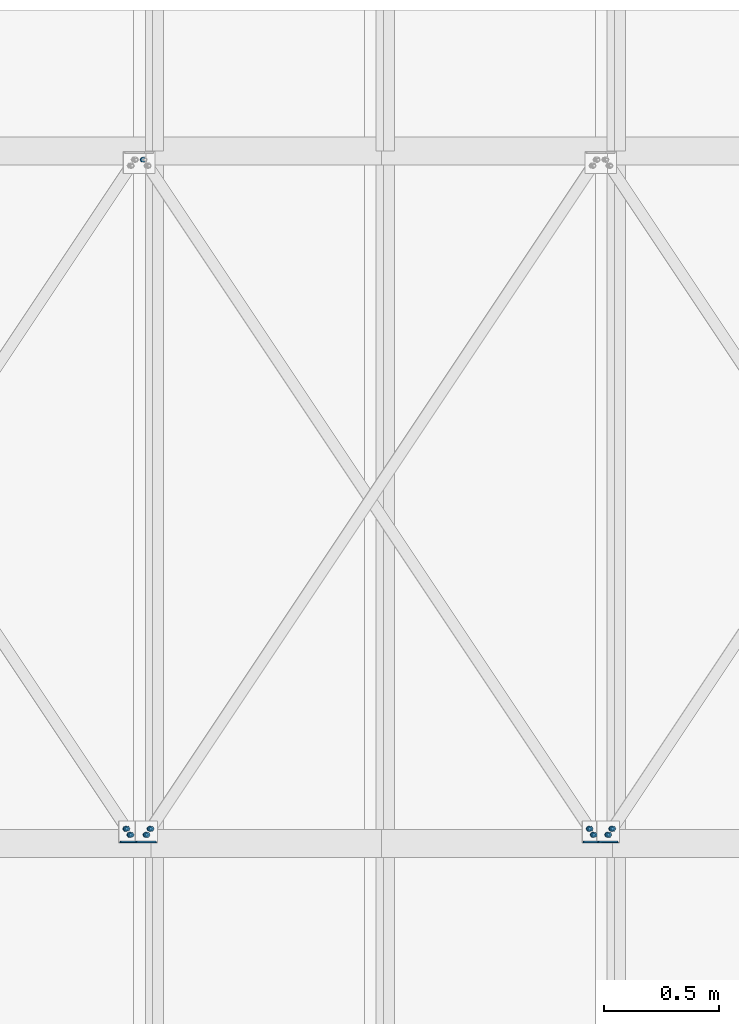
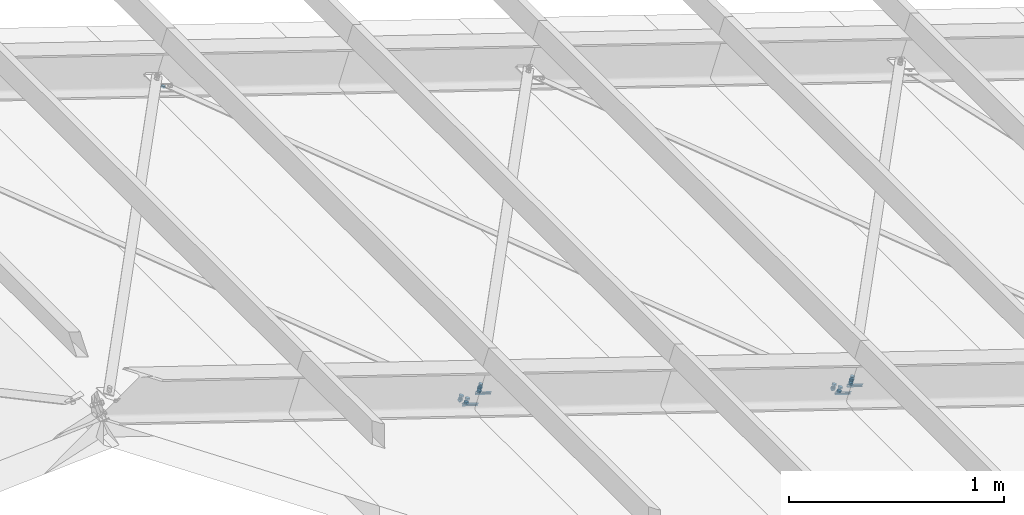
# One storey, part 45 of 53: 33 mechanical fasteners, 8 fasteners.
"""IFC4 building model written with IfcOpenShell, lengths in metres."""

from ifc_helpers import new_model, si_unit, frame, origin_with_axes, place, context, project, spatial, polyline, outline, extrude, type_object, element, save


model = new_model("IFC4")

# Units and contexts
model_context = context("Model", 3, precision=1e-05, world=origin_with_axes())
ifc_project = project(units=[si_unit("LENGTHUNIT", "METRE"), si_unit("AREAUNIT", "SQUARE_METRE"), si_unit("VOLUMEUNIT", "CUBIC_METRE"), si_unit("MASSUNIT", "GRAM", prefix="KILO"), si_unit("TIMEUNIT", "SECOND"), si_unit("PLANEANGLEUNIT", "RADIAN"), si_unit("SOLIDANGLEUNIT", "STERADIAN"), si_unit("THERMODYNAMICTEMPERATUREUNIT", "DEGREE_CELSIUS")], contexts=[model_context])

# Site, building, storey
placement_1 = place(None, origin_with_axes())
site = spatial("IfcSite", under=ifc_project, at=placement_1, Name="Italia", CompositionType="ELEMENT")
building = spatial("IfcBuilding", under=site, at=placement_1, Name="Capannone", CompositionType="ELEMENT")
storey_placement = place(None, frame((0.0, 0.0, 5.550000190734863), z_axis=(0.0, 0.0, 1.0), x_axis=(1.0, 0.0, 0.0)))
storey = spatial("IfcBuildingStorey", under=building, at=storey_placement, Name="Storey 1", CompositionType="ELEMENT", Elevation=5.550000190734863)

# Mechanical fasteners
mechanical_fastener_type_1 = type_object("IfcMechanicalFastenerType", Name="Collegamento -1088_-1058", PredefinedType="BOLT")
placement_2 = place(placement_1, origin_with_axes())
mechanical_fastener_1_placement = place(placement_2, origin_with_axes())
element("IfcMechanicalFastener", 1, at=mechanical_fastener_1_placement, inside=storey, type_object=mechanical_fastener_type_1, Name="Collegamento -1088_-1058", NominalDiameter=0.0119994, context=model_context, shape_type="SweptSolid", body=[
    extrude(outline(polyline([(0.0, 0.0), (-0.00982285, 0.00689316), (-0.0207033, 0.00183296), (-0.0217619, -0.0101204), (-0.011939, -0.0170126), (-0.00105762, -0.0119534), (0.0, 0.0)])), frame((11.0525, 12.0488, 6.62637), z_axis=(0.312127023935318, 0.0, 0.950040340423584), x_axis=(0.0, 1.0, 0.0)), (0.0, 0.0, 1.0), 0.00960008),
])
mechanical_fastener_type_2 = type_object("IfcMechanicalFastenerType", Name="Collegamento -1088_-1058", PredefinedType="BOLT")
mechanical_fastener_2_placement = place(placement_2, origin_with_axes())
element("IfcMechanicalFastener", 2, at=mechanical_fastener_2_placement, inside=storey, type_object=mechanical_fastener_type_2, Name="Collegamento -1088_-1058", NominalDiameter=0.012, context=model_context, shape_type="SweptSolid", body=[
    extrude(outline(polyline([(0.0, 0.0), (-0.000204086, -0.00155354), (-0.000802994, -0.00300026), (-0.00175667, -0.00424194), (-0.00299931, -0.00519562), (-0.00444698, -0.00579548), (-0.00599957, -0.00599957), (-0.00755215, -0.00579548), (-0.00899982, -0.00519562), (-0.0102425, -0.00424194), (-0.0111961, -0.00300026), (-0.011795, -0.00155354), (-0.0119991, 0.0), (-0.011795, 0.00155354), (-0.0111961, 0.00300026), (-0.0102425, 0.00424194), (-0.00899982, 0.00519562), (-0.00755215, 0.00579548), (-0.00599957, 0.00599957), (-0.00444698, 0.00579548), (-0.00299931, 0.00519562), (-0.00175667, 0.00424194), (-0.000802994, 0.00300026), (-0.000204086, 0.00155354), (0.0, 0.0)])), frame((11.0485, 12.0439, 6.59818), z_axis=(0.312127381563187, 0.0, 0.950040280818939), x_axis=(0.0, 1.0, 0.0)), (0.0, 0.0, 1.0), 0.0279997),
])
mechanical_fastener_type_3 = type_object("IfcMechanicalFastenerType", Name="Collegamento -1088_-1058", PredefinedType="BOLT")
mechanical_fastener_3_placement = place(placement_2, origin_with_axes())
element("IfcMechanicalFastener", 3, at=mechanical_fastener_3_placement, inside=storey, type_object=mechanical_fastener_type_3, Name="Collegamento -1088_-1058", NominalDiameter=0.0119994, context=model_context, shape_type="SweptSolid", body=[
    extrude(outline(polyline([(0.0, 0.0), (-0.00982285, 0.00689411), (-0.0207033, 0.00183392), (-0.0217619, -0.0101194), (-0.011939, -0.0170116), (-0.00105762, -0.0119514), (0.0, 0.0)])), frame((11.0457, 12.0488, 6.60584), z_axis=(0.312127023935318, 0.0, 0.950040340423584), x_axis=(0.0, 1.0, 0.0)), (0.0, 0.0, 1.0), 0.00960008),
])
mechanical_fastener_type_4 = type_object("IfcMechanicalFastenerType", Name="Collegamento -1088_-1058", PredefinedType="BOLT")
mechanical_fastener_4_placement = place(placement_2, origin_with_axes())
element("IfcMechanicalFastener", 4, at=mechanical_fastener_4_placement, inside=storey, type_object=mechanical_fastener_type_4, Name="Collegamento -1088_-1058", NominalDiameter=0.024, context=model_context, shape_type="SweptSolid", body=[
    extrude(outline(polyline([(0.0, 0.0), (-0.000409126, -0.00310516), (-0.00160789, -0.00600052), (-0.00351524, -0.00848484), (-0.00600052, -0.0103922), (-0.00889397, -0.011591), (-0.0120001, -0.0120001), (-0.0151062, -0.011591), (-0.0179996, -0.0103922), (-0.0204849, -0.00848484), (-0.0223923, -0.00600052), (-0.023591, -0.00310516), (-0.0240002, 0.0), (-0.023591, 0.00310612), (-0.0223923, 0.00600052), (-0.0204849, 0.00848484), (-0.0179996, 0.0103922), (-0.0151062, 0.01159), (-0.0120001, 0.0120001), (-0.00889397, 0.01159), (-0.00600052, 0.0103922), (-0.00351524, 0.00848484), (-0.00160789, 0.00600052), (-0.000409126, 0.00310612), (0.0, 0.0)])), frame((11.0535, 12.0499, 6.61339), z_axis=(0.312291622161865, 0.0, 0.949986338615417), x_axis=(0.0, 1.0, 0.0)), (0.0, 0.0, 1.0), 0.00200024),
])
mechanical_fastener_type_5 = type_object("IfcMechanicalFastenerType", Name="Collegamento -1088_-1058", PredefinedType="BOLT")
mechanical_fastener_5_placement = place(placement_2, origin_with_axes())
element("IfcMechanicalFastener", 5, at=mechanical_fastener_5_placement, inside=storey, type_object=mechanical_fastener_type_5, Name="Collegamento -1088_-1058", NominalDiameter=0.0119992, context=model_context, shape_type="SweptSolid", body=[
    extrude(outline(polyline([(0.0, 0.0), (-0.00982285, 0.00689316), (-0.0207043, 0.00183296), (-0.0217619, -0.0101204), (-0.011939, -0.0170126), (-0.00105858, -0.0119534), (0.0, 0.0)])), frame((11.0699, 12.075, 6.62063), z_axis=(0.312127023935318, 0.0, 0.950040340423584), x_axis=(0.0, 1.0, 0.0)), (0.0, 0.0, 1.0), 0.00960008),
])
mechanical_fastener_type_6 = type_object("IfcMechanicalFastenerType", Name="Collegamento -1088_-1058", PredefinedType="BOLT")
mechanical_fastener_6_placement = place(placement_2, origin_with_axes())
element("IfcMechanicalFastener", 6, at=mechanical_fastener_6_placement, inside=storey, type_object=mechanical_fastener_type_6, Name="Collegamento -1088_-1058", NominalDiameter=0.012, context=model_context, shape_type="SweptSolid", body=[
    extrude(outline(polyline([(0.0, 0.0), (-0.000204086, -0.00155354), (-0.000802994, -0.00300026), (-0.00175667, -0.00424194), (-0.00299931, -0.00519657), (-0.00444698, -0.00579548), (-0.00599957, -0.00600052), (-0.00755215, -0.00579548), (-0.00899982, -0.00519657), (-0.0102425, -0.00424194), (-0.0111961, -0.00300026), (-0.011795, -0.00155354), (-0.0119991, 0.0), (-0.011795, 0.00155258), (-0.0111961, 0.00300026), (-0.0102425, 0.00424099), (-0.00899982, 0.00519562), (-0.00755215, 0.00579453), (-0.00599957, 0.00599957), (-0.00444698, 0.00579453), (-0.00299931, 0.00519562), (-0.00175667, 0.00424099), (-0.000802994, 0.00300026), (-0.000204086, 0.00155258), (0.0, 0.0)])), frame((11.066, 12.0701, 6.59245), z_axis=(0.312158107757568, 0.0, 0.950030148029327), x_axis=(0.0, 1.0, 0.0)), (0.0, 0.0, 1.0), 0.028),
])
mechanical_fastener_type_7 = type_object("IfcMechanicalFastenerType", Name="Collegamento -1088_-1058", PredefinedType="BOLT")
mechanical_fastener_7_placement = place(placement_2, origin_with_axes())
element("IfcMechanicalFastener", 7, at=mechanical_fastener_7_placement, inside=storey, type_object=mechanical_fastener_type_7, Name="Collegamento -1088_-1058", NominalDiameter=0.0119995, context=model_context, shape_type="SweptSolid", body=[
    extrude(outline(polyline([(0.0, 0.0), (-0.00982285, 0.00689316), (-0.0207043, 0.00183296), (-0.0217619, -0.0101204), (-0.011939, -0.0170126), (-0.00105858, -0.0119524), (0.0, 0.0)])), frame((11.0632, 12.075, 6.60011), z_axis=(0.312127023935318, 0.0, 0.950040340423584), x_axis=(0.0, 1.0, 0.0)), (0.0, 0.0, 1.0), 0.00960008),
])
mechanical_fastener_type_8 = type_object("IfcMechanicalFastenerType", Name="Collegamento -1088_-1058", PredefinedType="BOLT")
mechanical_fastener_8_placement = place(placement_2, origin_with_axes())
element("IfcMechanicalFastener", 8, at=mechanical_fastener_8_placement, inside=storey, type_object=mechanical_fastener_type_8, Name="Collegamento -1088_-1058", NominalDiameter=0.024, context=model_context, shape_type="SweptSolid", body=[
    extrude(outline(polyline([(0.0, 0.0), (-0.000409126, -0.00310516), (-0.00160789, -0.00600052), (-0.00351524, -0.00848579), (-0.00600052, -0.0103912), (-0.00889397, -0.0115919), (-0.0120001, -0.0119991), (-0.0151062, -0.0115919), (-0.0179996, -0.0103912), (-0.0204849, -0.00848579), (-0.0223923, -0.00600052), (-0.023591, -0.00310516), (-0.0240002, 0.0), (-0.023591, 0.00310612), (-0.0223923, 0.00600052), (-0.0204849, 0.00848579), (-0.0179996, 0.0103922), (-0.0151062, 0.011591), (-0.0120001, 0.0120001), (-0.00889397, 0.011591), (-0.00600052, 0.0103922), (-0.00351524, 0.00848579), (-0.00160789, 0.00600052), (-0.000409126, 0.00310612), (0.0, 0.0)])), frame((11.071, 12.0761, 6.60765), z_axis=(0.311931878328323, 0.0, 0.950104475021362), x_axis=(0.0, 1.0, 0.0)), (0.0, 0.0, 1.0), 0.00199948),
])

# Fasteners
fastener_type_1 = type_object("IfcFastenerType", Name="Collegamento -1088_-1058", PredefinedType="WELD")
fastener_1_placement = place(placement_2, origin_with_axes())
element("IfcFastener", 9, at=fastener_1_placement, inside=storey, type_object=fastener_type_1, Name="Collegamento -1088_-1058", context=model_context, shape_type="SweptSolid", body=[
    extrude(outline(polyline([(0.0, 0.0), (-0.00717258, 0.00695896), (0.0, 0.00695896), (0.0, 0.0)])), frame((11.0944, 12.0031, 6.5948), z_axis=(-0.950032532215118, 0.0, 0.312150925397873), x_axis=(0.0, -1.0, 0.0)), (0.0, 0.0, 1.0), 0.0881004),
])
fastener_type_2 = type_object("IfcFastenerType", Name="Collegamento -1088_-1058", PredefinedType="WELD")
fastener_2_placement = place(placement_2, origin_with_axes())
element("IfcFastener", 10, at=fastener_2_placement, inside=storey, type_object=fastener_type_2, Name="Collegamento -1088_-1058", context=model_context, shape_type="SweptSolid", body=[
    extrude(outline(polyline([(0.0, 0.0), (0.00717258, -0.00695705), (0.0, -0.00695705), (0.0, 0.0)])), frame((11.0166, 12.0031, 6.64017), z_axis=(0.950031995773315, 0.0, -0.312152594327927), x_axis=(0.0, 1.0, 0.0)), (0.0, 0.0, 1.0), 0.0881015),
])

# Mechanical fasteners
mechanical_fastener_type_9 = type_object("IfcMechanicalFastenerType", Name="Collegamento -1088_-1122", PredefinedType="BOLT")
mechanical_fastener_9_placement = place(placement_2, origin_with_axes())
element("IfcMechanicalFastener", 11, at=mechanical_fastener_9_placement, inside=storey, type_object=mechanical_fastener_type_9, Name="Collegamento -1088_-1122", NominalDiameter=0.0119993, context=model_context, shape_type="SweptSolid", body=[
    extrude(outline(polyline([(0.0, 0.0), (-0.00982285, -0.0068922), (-0.00876427, -0.0188456), (0.0021162, -0.0239058), (0.011939, -0.0170116), (0.0108805, -0.0050602), (0.0, 0.0)])), frame((10.9829, 12.0369, 6.60713), z_axis=(0.312127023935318, 0.0, 0.950040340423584), x_axis=(0.0, 1.0, 0.0)), (0.0, 0.0, 1.0), 0.00960008),
])
mechanical_fastener_type_10 = type_object("IfcMechanicalFastenerType", Name="Collegamento -1088_-1122", PredefinedType="BOLT")
mechanical_fastener_10_placement = place(placement_2, origin_with_axes())
element("IfcMechanicalFastener", 12, at=mechanical_fastener_10_placement, inside=storey, type_object=mechanical_fastener_type_10, Name="Collegamento -1088_-1122", NominalDiameter=0.012, context=model_context, shape_type="SweptSolid", body=[
    extrude(outline(polyline([(0.0, 0.0), (-0.000204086, -0.00155354), (-0.000802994, -0.00300121), (-0.00175667, -0.0042429), (-0.00299931, -0.00519657), (-0.00444698, -0.00579643), (-0.00599957, -0.00599957), (-0.00755215, -0.00579643), (-0.00899982, -0.00519657), (-0.0102425, -0.0042429), (-0.0111961, -0.00300121), (-0.011795, -0.00155354), (-0.0119991, 0.0), (-0.011795, 0.00155258), (-0.0111961, 0.00299931), (-0.0102425, 0.00424194), (-0.00899982, 0.00519562), (-0.00755215, 0.00579453), (-0.00599957, 0.00599957), (-0.00444698, 0.00579453), (-0.00299931, 0.00519562), (-0.00175667, 0.00424194), (-0.000802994, 0.00299931), (-0.000204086, 0.00155258), (0.0, 0.0)])), frame((10.9855, 12.0439, 6.5768), z_axis=(0.312158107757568, 0.0, 0.950030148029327), x_axis=(0.0, 1.0, 0.0)), (0.0, 0.0, 1.0), 0.028),
])
mechanical_fastener_type_11 = type_object("IfcMechanicalFastenerType", Name="Collegamento -1088_-1122", PredefinedType="BOLT")
mechanical_fastener_11_placement = place(placement_2, origin_with_axes())
element("IfcMechanicalFastener", 13, at=mechanical_fastener_11_placement, inside=storey, type_object=mechanical_fastener_type_11, Name="Collegamento -1088_-1122", NominalDiameter=0.0119993, context=model_context, shape_type="SweptSolid", body=[
    extrude(outline(polyline([(0.0, 0.0), (-0.00982285, -0.0068922), (-0.00876427, -0.0188456), (0.0021162, -0.0239058), (0.011939, -0.0170126), (0.0108805, -0.00505924), (0.0, 0.0)])), frame((10.9761, 12.0369, 6.58661), z_axis=(0.312127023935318, 0.0, 0.950040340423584), x_axis=(0.0, 1.0, 0.0)), (0.0, 0.0, 1.0), 0.00960008),
])
mechanical_fastener_type_12 = type_object("IfcMechanicalFastenerType", Name="Collegamento -1088_-1122", PredefinedType="BOLT")
mechanical_fastener_12_placement = place(placement_2, origin_with_axes())
element("IfcMechanicalFastener", 14, at=mechanical_fastener_12_placement, inside=storey, type_object=mechanical_fastener_type_12, Name="Collegamento -1088_-1122", NominalDiameter=0.024, context=model_context, shape_type="SweptSolid", body=[
    extrude(outline(polyline([(0.0, 0.0), (-0.000409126, -0.00310612), (-0.00160789, -0.00600052), (-0.00351524, -0.00848484), (-0.00600052, -0.0103922), (-0.00889397, -0.0115919), (-0.0120001, -0.0120001), (-0.0151062, -0.0115919), (-0.0179996, -0.0103922), (-0.0204849, -0.00848484), (-0.0223923, -0.00600052), (-0.023591, -0.00310612), (-0.0240002, 0.0), (-0.023591, 0.00310516), (-0.0223923, 0.00599957), (-0.0204849, 0.00848579), (-0.0179996, 0.0103922), (-0.0151062, 0.011591), (-0.0120001, 0.0120001), (-0.00889397, 0.011591), (-0.00600052, 0.0103922), (-0.00351524, 0.00848579), (-0.00160789, 0.00599957), (-0.000409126, 0.00310516), (0.0, 0.0)])), frame((10.9905, 12.0499, 6.592), z_axis=(0.311931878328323, 0.0, 0.950104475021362), x_axis=(0.0, 1.0, 0.0)), (0.0, 0.0, 1.0), 0.00199948),
])
mechanical_fastener_type_13 = type_object("IfcMechanicalFastenerType", Name="Collegamento -1088_-1122", PredefinedType="BOLT")
mechanical_fastener_13_placement = place(placement_2, origin_with_axes())
element("IfcMechanicalFastener", 15, at=mechanical_fastener_13_placement, inside=storey, type_object=mechanical_fastener_type_13, Name="Collegamento -1088_-1122", NominalDiameter=0.0119989, context=model_context, shape_type="SweptSolid", body=[
    extrude(outline(polyline([(0.0, 0.0), (-0.00982189, -0.0068922), (-0.00876427, -0.0188456), (0.0021162, -0.0239058), (0.011939, -0.0170126), (0.0108814, -0.00505829), (0.0, 0.0)])), frame((10.9654, 12.0631, 6.61287), z_axis=(0.312127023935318, 0.0, 0.950040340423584), x_axis=(0.0, 1.0, 0.0)), (0.0, 0.0, 1.0), 0.00960008),
])
mechanical_fastener_type_14 = type_object("IfcMechanicalFastenerType", Name="Collegamento -1088_-1122", PredefinedType="BOLT")
mechanical_fastener_14_placement = place(placement_2, origin_with_axes())
element("IfcMechanicalFastener", 16, at=mechanical_fastener_14_placement, inside=storey, type_object=mechanical_fastener_type_14, Name="Collegamento -1088_-1122", NominalDiameter=0.012, context=model_context, shape_type="SweptSolid", body=[
    extrude(outline(polyline([(0.0, 0.0), (-0.000204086, -0.00155354), (-0.000802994, -0.00300121), (-0.00175667, -0.00424194), (-0.00299931, -0.00519657), (-0.00444698, -0.00579548), (-0.00599957, -0.00599957), (-0.00755215, -0.00579548), (-0.00899982, -0.00519657), (-0.0102425, -0.00424194), (-0.0111961, -0.00300121), (-0.011795, -0.00155354), (-0.0119991, 0.0), (-0.011795, 0.00155258), (-0.0111961, 0.00299931), (-0.0102425, 0.00424194), (-0.00899982, 0.00519562), (-0.00755215, 0.00579453), (-0.00599957, 0.00599957), (-0.00444698, 0.00579453), (-0.00299931, 0.00519562), (-0.00175667, 0.00424194), (-0.000802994, 0.00299931), (-0.000204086, 0.00155258), (0.0, 0.0)])), frame((10.968, 12.0701, 6.58254), z_axis=(0.312158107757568, 0.0, 0.950030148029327), x_axis=(0.0, 1.0, 0.0)), (0.0, 0.0, 1.0), 0.028),
])
mechanical_fastener_type_15 = type_object("IfcMechanicalFastenerType", Name="Collegamento -1088_-1122", PredefinedType="BOLT")
mechanical_fastener_15_placement = place(placement_2, origin_with_axes())
element("IfcMechanicalFastener", 17, at=mechanical_fastener_15_placement, inside=storey, type_object=mechanical_fastener_type_15, Name="Collegamento -1088_-1122", NominalDiameter=0.0119994, context=model_context, shape_type="SweptSolid", body=[
    extrude(outline(polyline([(0.0, 0.0), (-0.00982189, -0.0068922), (-0.00876427, -0.0188465), (0.0021162, -0.0239067), (0.011939, -0.0170135), (0.0108814, -0.0050602), (0.0, 0.0)])), frame((10.9587, 12.0631, 6.59235), z_axis=(0.312216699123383, 0.0, 0.950010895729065), x_axis=(0.0, 1.0, 0.0)), (0.0, 0.0, 1.0), 0.00960038),
])
mechanical_fastener_type_16 = type_object("IfcMechanicalFastenerType", Name="Collegamento -1088_-1122", PredefinedType="BOLT")
mechanical_fastener_16_placement = place(placement_2, origin_with_axes())
element("IfcMechanicalFastener", 18, at=mechanical_fastener_16_placement, inside=storey, type_object=mechanical_fastener_type_16, Name="Collegamento -1088_-1122", NominalDiameter=0.024, context=model_context, shape_type="SweptSolid", body=[
    extrude(outline(polyline([(0.0, 0.0), (-0.000409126, -0.00310612), (-0.00160789, -0.00600052), (-0.00351524, -0.00848579), (-0.00600052, -0.0103922), (-0.00889397, -0.011591), (-0.0120001, -0.0120001), (-0.0151062, -0.011591), (-0.0179996, -0.0103922), (-0.0204849, -0.00848579), (-0.0223923, -0.00600052), (-0.023591, -0.00310612), (-0.0240002, 0.0), (-0.023591, 0.00310612), (-0.0223923, 0.00600052), (-0.0204849, 0.00848579), (-0.0179996, 0.0103922), (-0.0151062, 0.011591), (-0.0120001, 0.0120001), (-0.00889397, 0.011591), (-0.00600052, 0.0103922), (-0.00351524, 0.00848579), (-0.00160789, 0.00600052), (-0.000409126, 0.00310612), (0.0, 0.0)])), frame((10.973, 12.0761, 6.59774), z_axis=(0.312220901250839, 0.0, 0.950009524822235), x_axis=(0.0, 1.0, 0.0)), (0.0, 0.0, 1.0), 0.00200069),
])

# Fasteners
fastener_type_3 = type_object("IfcFastenerType", Name="Collegamento -1088_-1122", PredefinedType="WELD")
fastener_3_placement = place(placement_2, origin_with_axes())
element("IfcFastener", 19, at=fastener_3_placement, inside=storey, type_object=fastener_type_3, Name="Collegamento -1088_-1122", context=model_context, shape_type="SweptSolid", body=[
    extrude(outline(polyline([(0.0, 0.0), (-0.00717258, 0.00695896), (0.0, 0.00695896), (0.0, 0.0)])), frame((11.0303, 12.0031, 6.57376), z_axis=(-0.950030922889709, 0.0, 0.312155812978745), x_axis=(0.0, -1.0, 0.0)), (0.0, 0.0, 1.0), 0.0881006),
])
fastener_type_4 = type_object("IfcFastenerType", Name="Collegamento -1088_-1122", PredefinedType="WELD")
fastener_4_placement = place(placement_2, origin_with_axes())
element("IfcFastener", 20, at=fastener_4_placement, inside=storey, type_object=fastener_type_4, Name="Collegamento -1088_-1122", context=model_context, shape_type="SweptSolid", body=[
    extrude(outline(polyline([(0.0, 0.0), (0.00717258, -0.00695801), (0.0, -0.00695801), (0.0, 0.0)])), frame((10.9524, 12.0031, 6.61914), z_axis=(0.950030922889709, 0.0, -0.312155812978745), x_axis=(0.0, 1.0, 0.0)), (0.0, 0.0, 1.0), 0.0881006),
])

# Mechanical fasteners
mechanical_fastener_type_17 = type_object("IfcMechanicalFastenerType", Name="Collegamento -1120_-1090", PredefinedType="BOLT")
mechanical_fastener_17_placement = place(placement_2, origin_with_axes())
element("IfcMechanicalFastener", 21, at=mechanical_fastener_17_placement, inside=storey, type_object=mechanical_fastener_type_17, Name="Collegamento -1120_-1090", NominalDiameter=0.0119995, context=model_context, shape_type="SweptSolid", body=[
    extrude(outline(polyline([(0.0, 0.0), (-0.00982285, 0.0068922), (-0.0207033, 0.00183201), (-0.0217619, -0.0101204), (-0.011939, -0.0170145), (-0.00105762, -0.0119543), (0.0, 0.0)])), frame((9.05247, 12.0488, 7.28351), z_axis=(0.312216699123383, 0.0, 0.950010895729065), x_axis=(0.0, 1.0, 0.0)), (0.0, 0.0, 1.0), 0.00960038),
])
mechanical_fastener_type_18 = type_object("IfcMechanicalFastenerType", Name="Collegamento -1120_-1090", PredefinedType="BOLT")
mechanical_fastener_18_placement = place(placement_2, origin_with_axes())
element("IfcMechanicalFastener", 22, at=mechanical_fastener_18_placement, inside=storey, type_object=mechanical_fastener_type_18, Name="Collegamento -1120_-1090", NominalDiameter=0.012, context=model_context, shape_type="SweptSolid", body=[
    extrude(outline(polyline([(0.0, 0.0), (-0.000204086, -0.00155306), (-0.000802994, -0.00300026), (-0.00175667, -0.00424194), (-0.00299931, -0.00519657), (-0.00444698, -0.00579548), (-0.00599957, -0.00600052), (-0.00755215, -0.00579548), (-0.00899982, -0.00519657), (-0.0102425, -0.00424194), (-0.0111961, -0.00300026), (-0.011795, -0.00155306), (-0.0119991, 0.0), (-0.011795, 0.00155258), (-0.0111961, 0.00300026), (-0.0102425, 0.00424194), (-0.00899982, 0.00519562), (-0.00755215, 0.005795), (-0.00599957, 0.00600004), (-0.00444698, 0.005795), (-0.00299931, 0.00519562), (-0.00175667, 0.00424194), (-0.000802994, 0.00300026), (-0.000204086, 0.00155258), (0.0, 0.0)])), frame((9.04854, 12.0439, 7.25533), z_axis=(0.312188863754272, 0.0, 0.95002007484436), x_axis=(0.0, 1.0, 0.0)), (0.0, 0.0, 1.0), 0.0280003),
])
mechanical_fastener_type_19 = type_object("IfcMechanicalFastenerType", Name="Collegamento -1120_-1090", PredefinedType="BOLT")
mechanical_fastener_19_placement = place(placement_2, origin_with_axes())
element("IfcMechanicalFastener", 23, at=mechanical_fastener_19_placement, inside=storey, type_object=mechanical_fastener_type_19, Name="Collegamento -1120_-1090", NominalDiameter=0.0119995, context=model_context, shape_type="SweptSolid", body=[
    extrude(outline(polyline([(0.0, 0.0), (-0.00982285, 0.0068922), (-0.0207033, 0.00183201), (-0.0217619, -0.0101204), (-0.011939, -0.017014), (-0.00105762, -0.0119538), (0.0, 0.0)])), frame((9.04573, 12.0488, 7.26299), z_axis=(0.312127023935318, 0.0, 0.950040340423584), x_axis=(0.0, 1.0, 0.0)), (0.0, 0.0, 1.0), 0.00960008),
])
mechanical_fastener_type_20 = type_object("IfcMechanicalFastenerType", Name="Collegamento -1120_-1090", PredefinedType="BOLT")
mechanical_fastener_20_placement = place(placement_2, origin_with_axes())
element("IfcMechanicalFastener", 24, at=mechanical_fastener_20_placement, inside=storey, type_object=mechanical_fastener_type_20, Name="Collegamento -1120_-1090", NominalDiameter=0.024, context=model_context, shape_type="SweptSolid", body=[
    extrude(outline(polyline([(0.0, 0.0), (-0.000409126, -0.00310612), (-0.00160789, -0.00600052), (-0.00351524, -0.00848579), (-0.00600052, -0.0103912), (-0.00889397, -0.0115919), (-0.0120001, -0.0119991), (-0.0151062, -0.0115919), (-0.0179996, -0.0103912), (-0.0204849, -0.00848579), (-0.0223923, -0.00600052), (-0.023591, -0.00310612), (-0.0240002, 0.0), (-0.023591, 0.00310612), (-0.0223923, 0.00600052), (-0.0204849, 0.00848579), (-0.0179996, 0.0103922), (-0.0151062, 0.0115919), (-0.0120001, 0.0120006), (-0.00889397, 0.0115919), (-0.00600052, 0.0103922), (-0.00351524, 0.00848579), (-0.00160789, 0.00600052), (-0.000409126, 0.00310612), (0.0, 0.0)])), frame((9.05353, 12.0499, 7.27053), z_axis=(0.311931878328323, 0.0, 0.950104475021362), x_axis=(0.0, 1.0, 0.0)), (0.0, 0.0, 1.0), 0.00199948),
])
mechanical_fastener_type_21 = type_object("IfcMechanicalFastenerType", Name="Collegamento -1120_-1090", PredefinedType="BOLT")
mechanical_fastener_21_placement = place(placement_2, origin_with_axes())
element("IfcMechanicalFastener", 25, at=mechanical_fastener_21_placement, inside=storey, type_object=mechanical_fastener_type_21, Name="Collegamento -1120_-1090", NominalDiameter=0.0119994, context=model_context, shape_type="SweptSolid", body=[
    extrude(outline(polyline([(0.0, 0.0), (-0.00982285, 0.00689268), (-0.0207043, 0.00183249), (-0.0217619, -0.0101209), (-0.011939, -0.017014), (-0.00105858, -0.0119538), (0.0, 0.0)])), frame((9.06993, 12.075, 7.27777), z_axis=(0.312216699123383, 0.0, 0.950010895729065), x_axis=(0.0, 1.0, 0.0)), (0.0, 0.0, 1.0), 0.00960038),
])
mechanical_fastener_type_22 = type_object("IfcMechanicalFastenerType", Name="Collegamento -1120_-1090", PredefinedType="BOLT")
mechanical_fastener_22_placement = place(placement_2, origin_with_axes())
element("IfcMechanicalFastener", 26, at=mechanical_fastener_22_placement, inside=storey, type_object=mechanical_fastener_type_22, Name="Collegamento -1120_-1090", NominalDiameter=0.012, context=model_context, shape_type="SweptSolid", body=[
    extrude(outline(polyline([(0.0, 0.0), (-0.000204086, -0.00155354), (-0.000802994, -0.00300121), (-0.00175667, -0.0042429), (-0.00299931, -0.00519657), (-0.00444698, -0.00579548), (-0.00599957, -0.00600052), (-0.00755215, -0.00579548), (-0.00899982, -0.00519657), (-0.0102425, -0.0042429), (-0.0111961, -0.00300121), (-0.011795, -0.00155354), (-0.0119991, 0.0), (-0.011795, 0.0015521), (-0.0111961, 0.00299931), (-0.0102425, 0.00424194), (-0.00899982, 0.00519514), (-0.00755215, 0.00579453), (-0.00599957, 0.00599909), (-0.00444698, 0.00579453), (-0.00299931, 0.00519514), (-0.00175667, 0.00424194), (-0.000802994, 0.00299931), (-0.000204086, 0.0015521), (0.0, 0.0)])), frame((9.066, 12.0701, 7.24959), z_axis=(0.312127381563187, 0.0, 0.950040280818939), x_axis=(0.0, 1.0, 0.0)), (0.0, 0.0, 1.0), 0.0279997),
])
mechanical_fastener_type_23 = type_object("IfcMechanicalFastenerType", Name="Collegamento -1120_-1090", PredefinedType="BOLT")
mechanical_fastener_23_placement = place(placement_2, origin_with_axes())
element("IfcMechanicalFastener", 27, at=mechanical_fastener_23_placement, inside=storey, type_object=mechanical_fastener_type_23, Name="Collegamento -1120_-1090", NominalDiameter=0.0119994, context=model_context, shape_type="SweptSolid", body=[
    extrude(outline(polyline([(0.0, 0.0), (-0.00982285, 0.0068922), (-0.0207043, 0.00183201), (-0.0217619, -0.0101204), (-0.011939, -0.0170135), (-0.00105858, -0.0119534), (0.0, 0.0)])), frame((9.06319, 12.075, 7.25725), z_axis=(0.312127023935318, 0.0, 0.950040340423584), x_axis=(0.0, 1.0, 0.0)), (0.0, 0.0, 1.0), 0.00960008),
])
mechanical_fastener_type_24 = type_object("IfcMechanicalFastenerType", Name="Collegamento -1120_-1090", PredefinedType="BOLT")
mechanical_fastener_24_placement = place(placement_2, origin_with_axes())
element("IfcMechanicalFastener", 28, at=mechanical_fastener_24_placement, inside=storey, type_object=mechanical_fastener_type_24, Name="Collegamento -1120_-1090", NominalDiameter=0.024, context=model_context, shape_type="SweptSolid", body=[
    extrude(outline(polyline([(0.0, 0.0), (-0.000409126, -0.00310564), (-0.00160789, -0.00600004), (-0.00351524, -0.00848484), (-0.00600052, -0.0103927), (-0.00889397, -0.0115905), (-0.0120001, -0.0119996), (-0.0151062, -0.0115905), (-0.0179996, -0.0103927), (-0.0204849, -0.00848484), (-0.0223923, -0.00600004), (-0.023591, -0.00310564), (-0.0240002, 0.0), (-0.023591, 0.00310612), (-0.0223923, 0.00600052), (-0.0204849, 0.00848532), (-0.0179996, 0.0103927), (-0.0151062, 0.011591), (-0.0120001, 0.0119996), (-0.00889397, 0.011591), (-0.00600052, 0.0103927), (-0.00351524, 0.00848532), (-0.00160789, 0.00600052), (-0.000409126, 0.00310612), (0.0, 0.0)])), frame((9.071, 12.0761, 7.26479), z_axis=(0.312362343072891, 0.0, 0.94996303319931), x_axis=(0.0, 1.0, 0.0)), (0.0, 0.0, 1.0), 0.00199978),
])

# Fasteners
fastener_type_5 = type_object("IfcFastenerType", Name="Collegamento -1120_-1090", PredefinedType="WELD")
fastener_5_placement = place(placement_2, origin_with_axes())
element("IfcFastener", 29, at=fastener_5_placement, inside=storey, type_object=fastener_type_5, Name="Collegamento -1120_-1090", context=model_context, shape_type="SweptSolid", body=[
    extrude(outline(polyline([(0.0, 0.0), (-0.00717258, 0.00695801), (0.0, 0.00695801), (0.0, 0.0)])), frame((9.09439, 12.0031, 7.25194), z_axis=(-0.950031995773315, 0.0, 0.312152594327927), x_axis=(0.0, -1.0, 0.0)), (0.0, 0.0, 1.0), 0.0881015),
])
fastener_type_6 = type_object("IfcFastenerType", Name="Collegamento -1120_-1090", PredefinedType="WELD")
fastener_6_placement = place(placement_2, origin_with_axes())
element("IfcFastener", 30, at=fastener_6_placement, inside=storey, type_object=fastener_type_6, Name="Collegamento -1120_-1090", context=model_context, shape_type="SweptSolid", body=[
    extrude(outline(polyline([(0.0, 0.0), (0.00717258, -0.00695896), (0.0, -0.00695896), (0.0, 0.0)])), frame((9.01656, 12.0031, 7.29732), z_axis=(0.950031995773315, 0.0, -0.312152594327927), x_axis=(0.0, 1.0, 0.0)), (0.0, 0.0, 1.0), 0.0881015),
])

# Mechanical fasteners
mechanical_fastener_type_25 = type_object("IfcMechanicalFastenerType", Name="Collegamento -1120_-1147", PredefinedType="BOLT")
mechanical_fastener_25_placement = place(placement_2, origin_with_axes())
element("IfcMechanicalFastener", 31, at=mechanical_fastener_25_placement, inside=storey, type_object=mechanical_fastener_type_25, Name="Collegamento -1120_-1147", NominalDiameter=0.0119994, context=model_context, shape_type="SweptSolid", body=[
    extrude(outline(polyline([(0.0, 0.0), (-0.00982285, -0.0068922), (-0.00876427, -0.0188456), (0.0021162, -0.0239058), (0.011939, -0.0170126), (0.0108814, -0.0050602), (0.0, 0.0)])), frame((8.97663, 12.0369, 7.24527), z_axis=(0.312127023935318, 0.0, 0.950040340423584), x_axis=(0.0, 1.0, 0.0)), (0.0, 0.0, 1.0), 0.00960008),
])
mechanical_fastener_type_26 = type_object("IfcMechanicalFastenerType", Name="Collegamento -1120_-1147", PredefinedType="BOLT")
mechanical_fastener_26_placement = place(placement_2, origin_with_axes())
element("IfcMechanicalFastener", 32, at=mechanical_fastener_26_placement, inside=storey, type_object=mechanical_fastener_type_26, Name="Collegamento -1120_-1147", NominalDiameter=0.012, context=model_context, shape_type="SweptSolid", body=[
    extrude(outline(polyline([(0.0, 0.0), (-0.000204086, -0.00155306), (-0.000802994, -0.00300074), (-0.00175667, -0.00424242), (-0.00299931, -0.00519609), (-0.00444698, -0.00579548), (-0.00599957, -0.00600004), (-0.00755215, -0.00579548), (-0.00899982, -0.00519609), (-0.0102425, -0.00424242), (-0.0111961, -0.00300074), (-0.011795, -0.00155306), (-0.0119991, 0.0), (-0.011795, 0.0015521), (-0.0111961, 0.00299978), (-0.0102425, 0.00424242), (-0.00899982, 0.00519514), (-0.00755215, 0.005795), (-0.00599957, 0.00599957), (-0.00444698, 0.005795), (-0.00299931, 0.00519514), (-0.00175667, 0.00424242), (-0.000802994, 0.00299978), (-0.000204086, 0.0015521), (0.0, 0.0)])), frame((8.97924, 12.0439, 7.21494), z_axis=(0.312127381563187, 0.0, 0.950040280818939), x_axis=(0.0, 1.0, 0.0)), (0.0, 0.0, 1.0), 0.0279997),
])
mechanical_fastener_type_27 = type_object("IfcMechanicalFastenerType", Name="Collegamento -1120_-1147", PredefinedType="BOLT")
mechanical_fastener_27_placement = place(placement_2, origin_with_axes())
element("IfcMechanicalFastener", 33, at=mechanical_fastener_27_placement, inside=storey, type_object=mechanical_fastener_type_27, Name="Collegamento -1120_-1147", NominalDiameter=0.0119994, context=model_context, shape_type="SweptSolid", body=[
    extrude(outline(polyline([(0.0, 0.0), (-0.00982285, -0.0068922), (-0.00876427, -0.018846), (0.0021162, -0.0239062), (0.011939, -0.0170126), (0.0108814, -0.0050602), (0.0, 0.0)])), frame((8.96989, 12.0369, 7.22475), z_axis=(0.312127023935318, 0.0, 0.950040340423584), x_axis=(0.0, 1.0, 0.0)), (0.0, 0.0, 1.0), 0.00960008),
])
mechanical_fastener_type_28 = type_object("IfcMechanicalFastenerType", Name="Collegamento -1120_-1147", PredefinedType="BOLT")
mechanical_fastener_28_placement = place(placement_2, origin_with_axes())
element("IfcMechanicalFastener", 34, at=mechanical_fastener_28_placement, inside=storey, type_object=mechanical_fastener_type_28, Name="Collegamento -1120_-1147", NominalDiameter=0.024, context=model_context, shape_type="SweptSolid", body=[
    extrude(outline(polyline([(0.0, 0.0), (-0.000409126, -0.00310612), (-0.00160789, -0.00600052), (-0.00351524, -0.00848484), (-0.00600052, -0.0103927), (-0.00889397, -0.011591), (-0.0120001, -0.0120001), (-0.0151062, -0.011591), (-0.0179996, -0.0103927), (-0.0204849, -0.00848484), (-0.0223923, -0.00600052), (-0.023591, -0.00310612), (-0.0240002, 0.0), (-0.023591, 0.00310612), (-0.0223923, 0.00600052), (-0.0204849, 0.00848484), (-0.0179996, 0.0103922), (-0.0151062, 0.011591), (-0.0120001, 0.0119996), (-0.00889397, 0.011591), (-0.00600052, 0.0103922), (-0.00351524, 0.00848484), (-0.00160789, 0.00600052), (-0.000409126, 0.00310612), (0.0, 0.0)])), frame((8.98424, 12.0499, 7.23014), z_axis=(0.312362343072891, 0.0, 0.94996303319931), x_axis=(0.0, 1.0, 0.0)), (0.0, 0.0, 1.0), 0.00199978),
])
mechanical_fastener_type_29 = type_object("IfcMechanicalFastenerType", Name="Collegamento -1120_-1147", PredefinedType="BOLT")
mechanical_fastener_29_placement = place(placement_2, origin_with_axes())
element("IfcMechanicalFastener", 35, at=mechanical_fastener_29_placement, inside=storey, type_object=mechanical_fastener_type_29, Name="Collegamento -1120_-1147", NominalDiameter=0.0119995, context=model_context, shape_type="SweptSolid", body=[
    extrude(outline(polyline([(0.0, 0.0), (-0.00982285, -0.0068922), (-0.00876522, -0.018846), (0.0021162, -0.0239062), (0.011939, -0.0170126), (0.0108805, -0.0050602), (0.0, 0.0)])), frame((8.95917, 12.0631, 7.25101), z_axis=(0.312127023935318, 0.0, 0.950040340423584), x_axis=(0.0, 1.0, 0.0)), (0.0, 0.0, 1.0), 0.00960008),
])
mechanical_fastener_type_30 = type_object("IfcMechanicalFastenerType", Name="Collegamento -1120_-1147", PredefinedType="BOLT")
mechanical_fastener_30_placement = place(placement_2, origin_with_axes())
element("IfcMechanicalFastener", 36, at=mechanical_fastener_30_placement, inside=storey, type_object=mechanical_fastener_type_30, Name="Collegamento -1120_-1147", NominalDiameter=0.012, context=model_context, shape_type="SweptSolid", body=[
    extrude(outline(polyline([(0.0, 0.0), (-0.000204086, -0.00155306), (-0.000802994, -0.00300026), (-0.00175667, -0.00424194), (-0.00299931, -0.00519657), (-0.00444698, -0.00579548), (-0.00599957, -0.00600052), (-0.00755215, -0.00579548), (-0.00899982, -0.00519657), (-0.0102425, -0.00424194), (-0.0111961, -0.00300026), (-0.011795, -0.00155306), (-0.0119991, 0.0), (-0.011795, 0.00155258), (-0.0111961, 0.00300026), (-0.0102425, 0.00424147), (-0.00899982, 0.00519562), (-0.00755215, 0.00579453), (-0.00599957, 0.00599957), (-0.00444698, 0.00579453), (-0.00299931, 0.00519562), (-0.00175667, 0.00424147), (-0.000802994, 0.00300026), (-0.000204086, 0.00155258), (0.0, 0.0)])), frame((8.96178, 12.0701, 7.22068), z_axis=(0.312158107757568, 0.0, 0.950030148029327), x_axis=(0.0, 1.0, 0.0)), (0.0, 0.0, 1.0), 0.028),
])
mechanical_fastener_type_31 = type_object("IfcMechanicalFastenerType", Name="Collegamento -1120_-1147", PredefinedType="BOLT")
mechanical_fastener_31_placement = place(placement_2, origin_with_axes())
element("IfcMechanicalFastener", 37, at=mechanical_fastener_31_placement, inside=storey, type_object=mechanical_fastener_type_31, Name="Collegamento -1120_-1147", NominalDiameter=0.0119995, context=model_context, shape_type="SweptSolid", body=[
    extrude(outline(polyline([(0.0, 0.0), (-0.00982285, -0.00689268), (-0.00876522, -0.018846), (0.0021162, -0.0239067), (0.011939, -0.0170126), (0.0108805, -0.0050602), (0.0, 0.0)])), frame((8.95242, 12.0631, 7.23049), z_axis=(0.312127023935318, 0.0, 0.950040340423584), x_axis=(0.0, 1.0, 0.0)), (0.0, 0.0, 1.0), 0.00960008),
])
mechanical_fastener_type_32 = type_object("IfcMechanicalFastenerType", Name="Collegamento -1120_-1147", PredefinedType="BOLT")
mechanical_fastener_32_placement = place(placement_2, origin_with_axes())
element("IfcMechanicalFastener", 38, at=mechanical_fastener_32_placement, inside=storey, type_object=mechanical_fastener_type_32, Name="Collegamento -1120_-1147", NominalDiameter=0.024, context=model_context, shape_type="SweptSolid", body=[
    extrude(outline(polyline([(0.0, 0.0), (-0.000409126, -0.00310612), (-0.00160789, -0.00600052), (-0.00351524, -0.00848579), (-0.00600052, -0.0103912), (-0.00889397, -0.0115919), (-0.0120001, -0.0120006), (-0.0151062, -0.0115919), (-0.0179996, -0.0103912), (-0.0204849, -0.00848579), (-0.0223923, -0.00600052), (-0.023591, -0.00310612), (-0.0240002, 0.0), (-0.023591, 0.00310612), (-0.0223923, 0.00600052), (-0.0204849, 0.00848579), (-0.0179996, 0.0103912), (-0.0151062, 0.0115919), (-0.0120001, 0.0119991), (-0.00889397, 0.0115919), (-0.00600052, 0.0103912), (-0.00351524, 0.00848579), (-0.00160789, 0.00600052), (-0.000409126, 0.00310612), (0.0, 0.0)])), frame((8.96678, 12.0761, 7.23588), z_axis=(0.311931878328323, 0.0, 0.950104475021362), x_axis=(0.0, 1.0, 0.0)), (0.0, 0.0, 1.0), 0.00199948),
])

# Fasteners
fastener_type_7 = type_object("IfcFastenerType", Name="Collegamento -1120_-1147", PredefinedType="WELD")
fastener_7_placement = place(placement_2, origin_with_axes())
element("IfcFastener", 39, at=fastener_7_placement, inside=storey, type_object=fastener_type_7, Name="Collegamento -1120_-1147", context=model_context, shape_type="SweptSolid", body=[
    extrude(outline(polyline([(0.0, 0.0), (-0.00717258, 0.00695801), (0.0, 0.00695801), (0.0, 0.0)])), frame((9.02402, 12.0031, 7.2119), z_axis=(-0.950026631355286, 0.0, 0.312168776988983), x_axis=(0.0, -1.0, 0.0)), (0.0, 0.0, 1.0), 0.0881),
])
fastener_type_8 = type_object("IfcFastenerType", Name="Collegamento -1120_-1147", PredefinedType="WELD")
fastener_8_placement = place(placement_2, origin_with_axes())
element("IfcFastener", 40, at=fastener_8_placement, inside=storey, type_object=fastener_type_8, Name="Collegamento -1120_-1147", context=model_context, shape_type="SweptSolid", body=[
    extrude(outline(polyline([(0.0, 0.0), (0.00717258, -0.00695801), (0.0, -0.00695801), (0.0, 0.0)])), frame((8.94619, 12.0031, 7.25728), z_axis=(0.950031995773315, 0.0, -0.312152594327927), x_axis=(0.0, 1.0, 0.0)), (0.0, 0.0, 1.0), 0.0881015),
])

# Mechanical fastener
mechanical_fastener_type_33 = type_object("IfcMechanicalFastenerType", Name="Collegamento -1122_-1088", PredefinedType="BOLT")
mechanical_fastener_33_placement = place(placement_2, origin_with_axes())
element("IfcMechanicalFastener", 41, at=mechanical_fastener_33_placement, inside=storey, type_object=mechanical_fastener_type_33, Name="Collegamento -1122_-1088", NominalDiameter=0.0119995, context=model_context, shape_type="SweptSolid", body=[
    extrude(outline(polyline([(0.0, 0.0), (-0.00982285, 0.00689316), (-0.0207033, 0.00183296), (-0.0217619, -0.0101199), (-0.011939, -0.0170135), (-0.00105762, -0.0119534), (0.0, 0.0)])), frame((9.03686, 14.9512, 7.23601), z_axis=(-0.312141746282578, 0.0, -0.950035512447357), x_axis=(0.0, -1.0, 0.0)), (0.0, 0.0, 1.0), 0.00959963),
])

save(model, "model.ifc")
